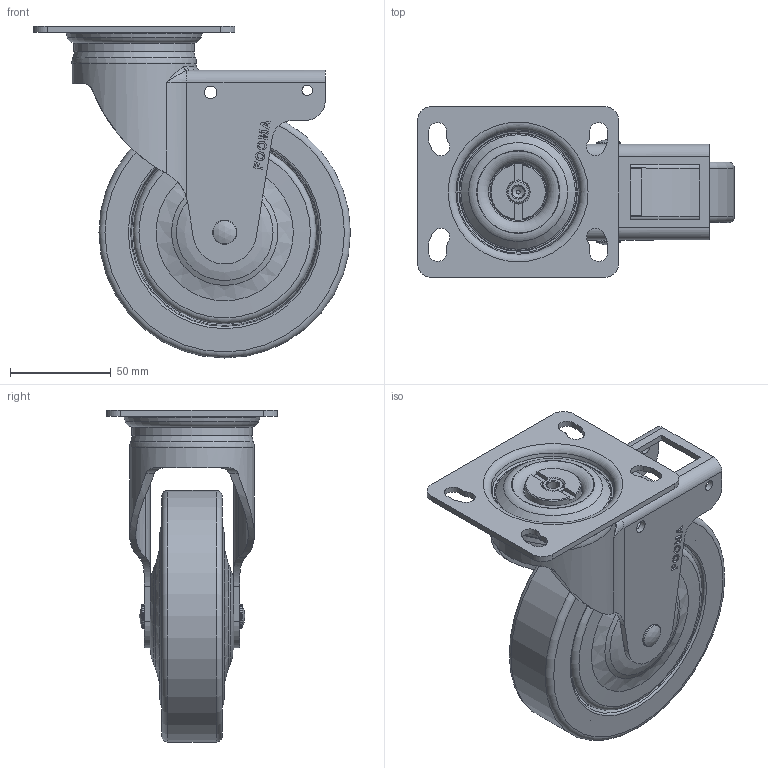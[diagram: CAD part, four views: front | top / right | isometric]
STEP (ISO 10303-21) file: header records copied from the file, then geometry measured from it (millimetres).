
FILE_DESCRIPTION((''),'2;1');
FILE_NAME('C:\Documents and Settings\Administrator\바탕 화면\3D STEP\P-SERIES\P-125-ASF\P-125-ASF.stp','2010-12-27T15:12:32',('Administrator'),(''),'Autodesk Inventor 2009','Autodesk Inventor 2009','');
FILE_SCHEMA(('AUTOMOTIVE_DESIGN { 1 0 10303 214 1 1 1 1 }'));
Length unit declared in the file: millimetre
Products named in the file (1): P-125-ASF
Bounding box: 157.5 x 85 x 165 mm (x, y, z)
Volume: 366812.6 mm3; surface area: 164501.9 mm2
Topology: 14 solids, 14 shells, 910 faces, 2269 edges, 1430 vertices
Faces by surface type: plane 395, cylinder 231, bspline 178, torus 56, cone 48, sphere 2
Full cylindrical faces by diameter (mm): 2 x2, 4.8 x1, 5 x1, 5.2 x2, 6 x1, 6.2 x2, 7.8 x1, 8 x2, 8.2 x2, 12 x9, 13.4 x1, 18 x5, 22 x4, 28 x1, 31 x1, 34 x2, 51.902 x1, 54 x1, 56 x1, 59.902 x1, 62 x1, 86 x2, 91 x2, 124.998 x1
Entity records: 39815 total; most frequent: CARTESIAN_POINT 19864, ORIENTED_EDGE 4072, DIRECTION 3788, EDGE_CURVE 2036, VERTEX_POINT 1384, AXIS2_PLACEMENT_3D 1383, EDGE_LOOP 1184, VECTOR 1022
